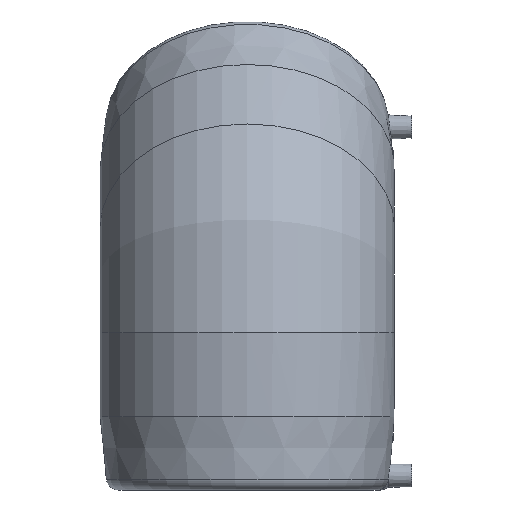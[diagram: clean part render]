
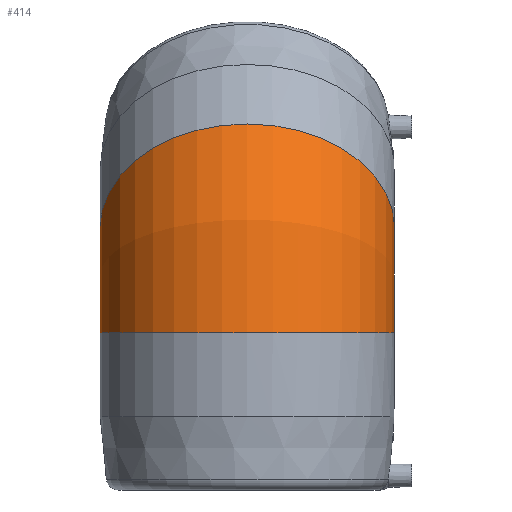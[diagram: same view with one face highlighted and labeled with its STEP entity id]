
A CAD part, left-side view. The second image highlights one B-rep face of the part: STEP entity #414.
In plain terms, the highlighted toroidal (fillet/blend) face has major radius 123.125 mm and minor radius 122.5 mm.
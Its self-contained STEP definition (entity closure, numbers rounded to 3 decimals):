
#23=TOROIDAL_SURFACE('',#483,123.125,122.5);
#110=ORIENTED_EDGE('',*,*,#178,.F.);
#111=ORIENTED_EDGE('',*,*,#177,.T.);
#177=EDGE_CURVE('',#220,#220,#248,.F.);
#178=EDGE_CURVE('',#221,#221,#249,.F.);
#220=VERTEX_POINT('',#817);
#221=VERTEX_POINT('',#820);
#248=CIRCLE('',#482,122.5);
#249=CIRCLE('',#484,122.5);
#299=EDGE_LOOP('',(#110));
#300=EDGE_LOOP('',(#111));
#360=FACE_BOUND('',#299,.T.);
#361=FACE_BOUND('',#300,.T.);
#414=ADVANCED_FACE('',(#360,#361),#23,.T.);
#482=AXIS2_PLACEMENT_3D('',#816,#590,#591);
#483=AXIS2_PLACEMENT_3D('',#818,#592,#593);
#484=AXIS2_PLACEMENT_3D('',#819,#594,#595);
#590=DIRECTION('',(0.,0.,-1.));
#591=DIRECTION('',(1.,0.,0.));
#592=DIRECTION('',(0.,1.,0.));
#593=DIRECTION('',(0.,0.,1.));
#594=DIRECTION('',(-0.707,0.,-0.707));
#595=DIRECTION('',(0.707,0.,-0.707));
#816=CARTESIAN_POINT('',(0.,0.,-51.));
#817=CARTESIAN_POINT('',(122.5,0.,-51.));
#818=CARTESIAN_POINT('',(123.125,0.,-51.));
#819=CARTESIAN_POINT('',(36.062,0.,36.062));
#820=CARTESIAN_POINT('',(122.683,0.,-50.558));
